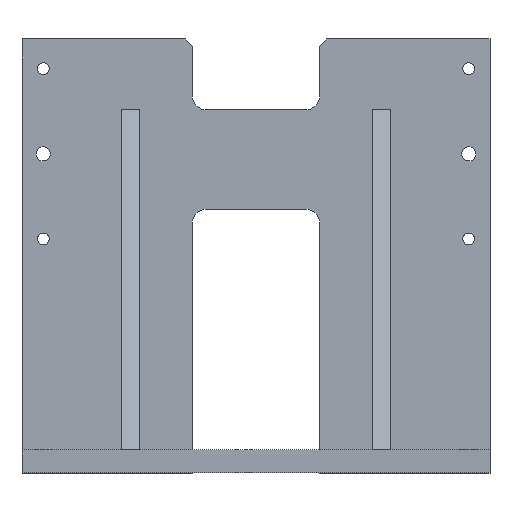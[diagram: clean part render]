
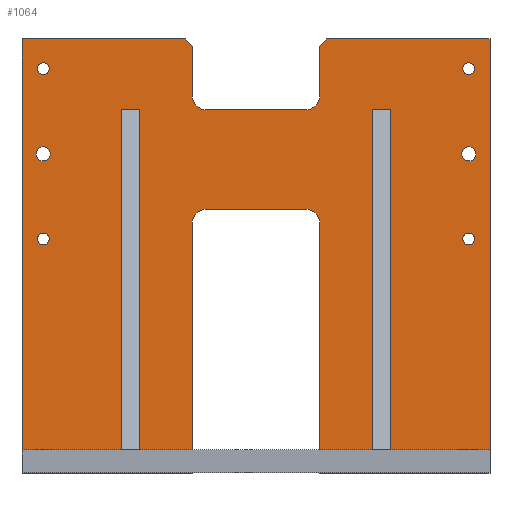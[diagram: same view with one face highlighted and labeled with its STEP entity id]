
A CAD part, top view. The second image highlights one B-rep face of the part: STEP entity #1064.
In plain terms, the highlighted planar face has unit normal (0, 0, 1).
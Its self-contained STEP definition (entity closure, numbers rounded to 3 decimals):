
#30=FACE_BOUND($,#174,.T.);
#31=FACE_BOUND($,#175,.T.);
#32=FACE_BOUND($,#176,.T.);
#33=FACE_BOUND($,#177,.T.);
#34=FACE_BOUND($,#178,.T.);
#35=FACE_BOUND($,#179,.T.);
#67=PLANE($,#1147);
#105=FACE_OUTER_BOUND($,#173,.T.);
#173=EDGE_LOOP($,(#858,#859,#860,#861,#862,#863,#864,#865,#866,#867,#868,
#869,#870,#871,#872,#873,#874,#875,#876,#877,#878,#879,#880,#881,#882,#883));
#174=EDGE_LOOP($,(#884));
#175=EDGE_LOOP($,(#885));
#176=EDGE_LOOP($,(#886));
#177=EDGE_LOOP($,(#887));
#178=EDGE_LOOP($,(#888));
#179=EDGE_LOOP($,(#889));
#225=LINE($,#1484,#327);
#235=LINE($,#1508,#337);
#242=LINE($,#1525,#344);
#244=LINE($,#1529,#346);
#248=LINE($,#1537,#350);
#252=LINE($,#1545,#354);
#256=LINE($,#1552,#358);
#277=LINE($,#1620,#379);
#283=LINE($,#1631,#385);
#292=LINE($,#1665,#394);
#294=LINE($,#1669,#396);
#298=LINE($,#1680,#400);
#299=LINE($,#1683,#401);
#300=LINE($,#1685,#402);
#301=LINE($,#1686,#403);
#302=LINE($,#1688,#404);
#303=LINE($,#1689,#405);
#304=LINE($,#1691,#406);
#305=LINE($,#1692,#407);
#306=LINE($,#1694,#408);
#307=LINE($,#1696,#409);
#308=LINE($,#1697,#410);
#327=VECTOR($,#1205,70.);
#337=VECTOR($,#1223,160.);
#344=VECTOR($,#1238,160.);
#346=VECTOR($,#1242,37.3);
#350=VECTOR($,#1246,70.);
#354=VECTOR($,#1250,70.);
#358=VECTOR($,#1254,37.3);
#379=VECTOR($,#1317,7.071);
#385=VECTOR($,#1325,35.);
#394=VECTOR($,#1354,7.071);
#396=VECTOR($,#1358,35.);
#400=VECTOR($,#1372,70.);
#401=VECTOR($,#1375,240.);
#402=VECTOR($,#1376,12.7);
#403=VECTOR($,#1377,240.);
#404=VECTOR($,#1378,290.);
#405=VECTOR($,#1379,115.);
#406=VECTOR($,#1380,115.);
#407=VECTOR($,#1381,290.);
#408=VECTOR($,#1382,240.);
#409=VECTOR($,#1383,12.7);
#410=VECTOR($,#1384,240.);
#423=CIRCLE($,#1098,10.);
#425=CIRCLE($,#1102,10.);
#448=CIRCLE($,#1143,10.);
#449=CIRCLE($,#1145,10.);
#450=CIRCLE($,#1148,5.);
#451=CIRCLE($,#1149,5.);
#452=CIRCLE($,#1150,4.188);
#453=CIRCLE($,#1151,4.188);
#454=CIRCLE($,#1152,4.188);
#455=CIRCLE($,#1153,4.188);
#464=VERTEX_POINT($,#1474);
#465=VERTEX_POINT($,#1476);
#467=VERTEX_POINT($,#1482);
#469=VERTEX_POINT($,#1488);
#477=VERTEX_POINT($,#1506);
#483=VERTEX_POINT($,#1524);
#484=VERTEX_POINT($,#1528);
#487=VERTEX_POINT($,#1534);
#488=VERTEX_POINT($,#1536);
#491=VERTEX_POINT($,#1542);
#492=VERTEX_POINT($,#1544);
#495=VERTEX_POINT($,#1550);
#520=VERTEX_POINT($,#1618);
#521=VERTEX_POINT($,#1619);
#525=VERTEX_POINT($,#1629);
#539=VERTEX_POINT($,#1662);
#540=VERTEX_POINT($,#1664);
#541=VERTEX_POINT($,#1668);
#542=VERTEX_POINT($,#1672);
#543=VERTEX_POINT($,#1676);
#544=VERTEX_POINT($,#1682);
#545=VERTEX_POINT($,#1684);
#546=VERTEX_POINT($,#1687);
#547=VERTEX_POINT($,#1690);
#548=VERTEX_POINT($,#1693);
#549=VERTEX_POINT($,#1695);
#550=VERTEX_POINT($,#1698);
#551=VERTEX_POINT($,#1700);
#552=VERTEX_POINT($,#1702);
#553=VERTEX_POINT($,#1704);
#554=VERTEX_POINT($,#1706);
#555=VERTEX_POINT($,#1708);
#565=EDGE_CURVE($,#464,#465,#423,.T.);
#569=EDGE_CURVE($,#464,#467,#225,.T.);
#572=EDGE_CURVE($,#469,#467,#425,.T.);
#581=EDGE_CURVE($,#469,#477,#235,.T.);
#590=EDGE_CURVE($,#483,#465,#242,.T.);
#592=EDGE_CURVE($,#484,#483,#244,.T.);
#596=EDGE_CURVE($,#488,#487,#248,.T.);
#600=EDGE_CURVE($,#492,#491,#252,.T.);
#604=EDGE_CURVE($,#477,#495,#256,.T.);
#637=EDGE_CURVE($,#520,#521,#277,.T.);
#643=EDGE_CURVE($,#520,#525,#283,.T.);
#660=EDGE_CURVE($,#539,#540,#292,.T.);
#662=EDGE_CURVE($,#541,#540,#294,.T.);
#664=EDGE_CURVE($,#542,#525,#448,.T.);
#666=EDGE_CURVE($,#541,#543,#449,.T.);
#668=EDGE_CURVE($,#542,#543,#298,.T.);
#669=EDGE_CURVE($,#495,#544,#299,.T.);
#670=EDGE_CURVE($,#544,#545,#300,.T.);
#671=EDGE_CURVE($,#545,#492,#301,.T.);
#672=EDGE_CURVE($,#491,#546,#302,.T.);
#673=EDGE_CURVE($,#546,#521,#303,.T.);
#674=EDGE_CURVE($,#539,#547,#304,.T.);
#675=EDGE_CURVE($,#547,#488,#305,.T.);
#676=EDGE_CURVE($,#487,#548,#306,.T.);
#677=EDGE_CURVE($,#548,#549,#307,.T.);
#678=EDGE_CURVE($,#549,#484,#308,.T.);
#679=EDGE_CURVE($,#550,#550,#450,.T.);
#680=EDGE_CURVE($,#551,#551,#451,.T.);
#681=EDGE_CURVE($,#552,#552,#452,.T.);
#682=EDGE_CURVE($,#553,#553,#453,.T.);
#683=EDGE_CURVE($,#554,#554,#454,.T.);
#684=EDGE_CURVE($,#555,#555,#455,.T.);
#858=ORIENTED_EDGE($,*,*,#581,.T.);
#859=ORIENTED_EDGE($,*,*,#604,.T.);
#860=ORIENTED_EDGE($,*,*,#669,.T.);
#861=ORIENTED_EDGE($,*,*,#670,.T.);
#862=ORIENTED_EDGE($,*,*,#671,.T.);
#863=ORIENTED_EDGE($,*,*,#600,.T.);
#864=ORIENTED_EDGE($,*,*,#672,.T.);
#865=ORIENTED_EDGE($,*,*,#673,.T.);
#866=ORIENTED_EDGE($,*,*,#637,.F.);
#867=ORIENTED_EDGE($,*,*,#643,.T.);
#868=ORIENTED_EDGE($,*,*,#664,.F.);
#869=ORIENTED_EDGE($,*,*,#668,.T.);
#870=ORIENTED_EDGE($,*,*,#666,.F.);
#871=ORIENTED_EDGE($,*,*,#662,.T.);
#872=ORIENTED_EDGE($,*,*,#660,.F.);
#873=ORIENTED_EDGE($,*,*,#674,.T.);
#874=ORIENTED_EDGE($,*,*,#675,.T.);
#875=ORIENTED_EDGE($,*,*,#596,.T.);
#876=ORIENTED_EDGE($,*,*,#676,.T.);
#877=ORIENTED_EDGE($,*,*,#677,.T.);
#878=ORIENTED_EDGE($,*,*,#678,.T.);
#879=ORIENTED_EDGE($,*,*,#592,.T.);
#880=ORIENTED_EDGE($,*,*,#590,.T.);
#881=ORIENTED_EDGE($,*,*,#565,.F.);
#882=ORIENTED_EDGE($,*,*,#569,.T.);
#883=ORIENTED_EDGE($,*,*,#572,.F.);
#884=ORIENTED_EDGE($,*,*,#679,.T.);
#885=ORIENTED_EDGE($,*,*,#680,.T.);
#886=ORIENTED_EDGE($,*,*,#681,.T.);
#887=ORIENTED_EDGE($,*,*,#682,.T.);
#888=ORIENTED_EDGE($,*,*,#683,.T.);
#889=ORIENTED_EDGE($,*,*,#684,.T.);
#1064=ADVANCED_FACE($,(#105,#30,#31,#32,#33,#34,#35),#67,.T.);
#1098=AXIS2_PLACEMENT_3D($,#1477,#1198,#1199);
#1102=AXIS2_PLACEMENT_3D($,#1490,#1211,#1212);
#1143=AXIS2_PLACEMENT_3D($,#1673,#1362,#1363);
#1145=AXIS2_PLACEMENT_3D($,#1677,#1367,#1368);
#1147=AXIS2_PLACEMENT_3D($,#1681,#1373,#1374);
#1148=AXIS2_PLACEMENT_3D($,#1699,#1385,#1386);
#1149=AXIS2_PLACEMENT_3D($,#1701,#1387,#1388);
#1150=AXIS2_PLACEMENT_3D($,#1703,#1389,#1390);
#1151=AXIS2_PLACEMENT_3D($,#1705,#1391,#1392);
#1152=AXIS2_PLACEMENT_3D($,#1707,#1393,#1394);
#1153=AXIS2_PLACEMENT_3D($,#1709,#1395,#1396);
#1198=DIRECTION('center_axis',(0.,0.,1.));
#1199=DIRECTION('ref_axis',(-0.707,0.707,0.));
#1205=DIRECTION($,(1.,0.,0.));
#1211=DIRECTION('center_axis',(0.,0.,1.));
#1212=DIRECTION('ref_axis',(0.707,0.707,0.));
#1223=DIRECTION($,(0.,-1.,0.));
#1238=DIRECTION($,(0.,1.,0.));
#1242=DIRECTION($,(1.,0.,0.));
#1246=DIRECTION($,(1.,0.,0.));
#1250=DIRECTION($,(1.,0.,0.));
#1254=DIRECTION($,(1.,0.,0.));
#1317=DIRECTION($,(0.707,0.707,0.));
#1325=DIRECTION($,(0.,-1.,0.));
#1354=DIRECTION($,(0.707,-0.707,0.));
#1358=DIRECTION($,(0.,1.,0.));
#1362=DIRECTION('center_axis',(0.,0.,1.));
#1363=DIRECTION('ref_axis',(0.707,-0.707,0.));
#1367=DIRECTION('center_axis',(0.,0.,1.));
#1368=DIRECTION('ref_axis',(-0.707,-0.707,0.));
#1372=DIRECTION($,(-1.,0.,0.));
#1373=DIRECTION('center_axis',(0.,0.,1.));
#1374=DIRECTION('ref_axis',(1.,0.,0.));
#1375=DIRECTION($,(0.,1.,0.));
#1376=DIRECTION($,(1.,0.,0.));
#1377=DIRECTION($,(0.,-1.,0.));
#1378=DIRECTION($,(0.,1.,0.));
#1379=DIRECTION($,(-1.,0.,0.));
#1380=DIRECTION($,(-1.,0.,0.));
#1381=DIRECTION($,(0.,-1.,0.));
#1382=DIRECTION($,(0.,1.,0.));
#1383=DIRECTION($,(1.,0.,0.));
#1384=DIRECTION($,(0.,-1.,0.));
#1385=DIRECTION('center_axis',(0.,0.,-1.));
#1386=DIRECTION('ref_axis',(-1.,0.,0.));
#1387=DIRECTION('center_axis',(0.,0.,-1.));
#1388=DIRECTION('ref_axis',(-1.,0.,0.));
#1389=DIRECTION('center_axis',(0.,0.,-1.));
#1390=DIRECTION('ref_axis',(-1.,0.,0.));
#1391=DIRECTION('center_axis',(0.,0.,-1.));
#1392=DIRECTION('ref_axis',(-1.,0.,0.));
#1393=DIRECTION('center_axis',(0.,0.,-1.));
#1394=DIRECTION('ref_axis',(-1.,0.,0.));
#1395=DIRECTION('center_axis',(0.,0.,-1.));
#1396=DIRECTION('ref_axis',(-1.,0.,0.));
#1474=CARTESIAN_POINT('',(-35.,25.,19.05));
#1476=CARTESIAN_POINT('',(-45.,15.,19.05));
#1477=CARTESIAN_POINT('Origin',(-35.,15.,19.05));
#1482=CARTESIAN_POINT('',(35.,25.,19.05));
#1484=CARTESIAN_POINT($,(22.5,25.,19.05));
#1488=CARTESIAN_POINT('',(45.,15.,19.05));
#1490=CARTESIAN_POINT('Origin',(35.,15.,19.05));
#1506=CARTESIAN_POINT('',(45.,-145.,19.05));
#1508=CARTESIAN_POINT($,(45.,-80.5,19.05));
#1524=CARTESIAN_POINT('',(-45.,-145.,19.05));
#1525=CARTESIAN_POINT($,(-45.,12.5,19.05));
#1528=CARTESIAN_POINT('',(-82.3,-145.,19.05));
#1529=CARTESIAN_POINT($,(165.,-145.,19.05));
#1534=CARTESIAN_POINT('',(-95.,-145.,19.05));
#1536=CARTESIAN_POINT('',(-165.,-145.,19.05));
#1537=CARTESIAN_POINT($,(165.,-145.,19.05));
#1542=CARTESIAN_POINT('',(165.,-145.,19.05));
#1544=CARTESIAN_POINT('',(95.,-145.,19.05));
#1545=CARTESIAN_POINT($,(165.,-145.,19.05));
#1550=CARTESIAN_POINT('',(82.3,-145.,19.05));
#1552=CARTESIAN_POINT($,(165.,-145.,19.05));
#1618=CARTESIAN_POINT('',(45.,140.,19.05));
#1619=CARTESIAN_POINT('',(50.,145.,19.05));
#1620=CARTESIAN_POINT($,(0.,95.,19.05));
#1629=CARTESIAN_POINT('',(45.,105.,19.05));
#1631=CARTESIAN_POINT($,(45.,72.5,19.05));
#1662=CARTESIAN_POINT('',(-50.,145.,19.05));
#1664=CARTESIAN_POINT('',(-45.,140.,19.05));
#1665=CARTESIAN_POINT($,(0.,95.,19.05));
#1668=CARTESIAN_POINT('',(-45.,105.,19.05));
#1669=CARTESIAN_POINT($,(-45.,47.5,19.05));
#1672=CARTESIAN_POINT('',(35.,95.,19.05));
#1673=CARTESIAN_POINT('Origin',(35.,105.,19.05));
#1676=CARTESIAN_POINT('',(-35.,95.,19.05));
#1677=CARTESIAN_POINT('Origin',(-35.,105.,19.05));
#1680=CARTESIAN_POINT($,(22.5,95.,19.05));
#1681=CARTESIAN_POINT('Origin',(0.,0.,
19.05));
#1682=CARTESIAN_POINT('',(82.3,95.,19.05));
#1683=CARTESIAN_POINT($,(82.3,-24.434,19.05));
#1684=CARTESIAN_POINT('',(95.,95.,19.05));
#1685=CARTESIAN_POINT($,(47.5,95.,19.05));
#1686=CARTESIAN_POINT($,(95.,-24.434,19.05));
#1687=CARTESIAN_POINT('',(165.,145.,19.05));
#1688=CARTESIAN_POINT($,(165.,145.,19.05));
#1689=CARTESIAN_POINT($,(-165.,145.,19.05));
#1690=CARTESIAN_POINT('',(-165.,145.,19.05));
#1691=CARTESIAN_POINT($,(-165.,145.,19.05));
#1692=CARTESIAN_POINT($,(-165.,-145.,19.05));
#1693=CARTESIAN_POINT('',(-95.,95.,19.05));
#1694=CARTESIAN_POINT($,(-95.,-24.434,19.05));
#1695=CARTESIAN_POINT('',(-82.3,95.,19.05));
#1696=CARTESIAN_POINT($,(-47.5,95.,19.05));
#1697=CARTESIAN_POINT($,(-82.3,-24.434,19.05));
#1698=CARTESIAN_POINT('',(-145.,64.,19.05));
#1699=CARTESIAN_POINT('Origin',(-150.,64.,19.05));
#1700=CARTESIAN_POINT('',(155.,64.,19.05));
#1701=CARTESIAN_POINT('Origin',(150.,64.,19.05));
#1702=CARTESIAN_POINT('',(-145.812,4.,19.05));
#1703=CARTESIAN_POINT('Origin',(-150.,4.,19.05));
#1704=CARTESIAN_POINT('',(154.188,124.,19.05));
#1705=CARTESIAN_POINT('Origin',(150.,124.,19.05));
#1706=CARTESIAN_POINT('',(154.188,4.,19.05));
#1707=CARTESIAN_POINT('Origin',(150.,4.,19.05));
#1708=CARTESIAN_POINT('',(-145.812,124.,19.05));
#1709=CARTESIAN_POINT('Origin',(-150.,124.,19.05));
